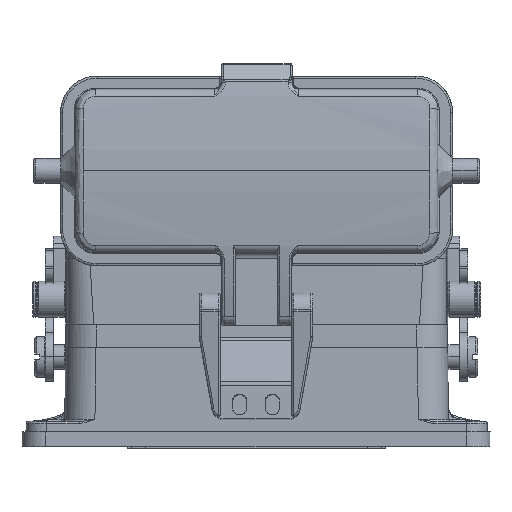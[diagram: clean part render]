
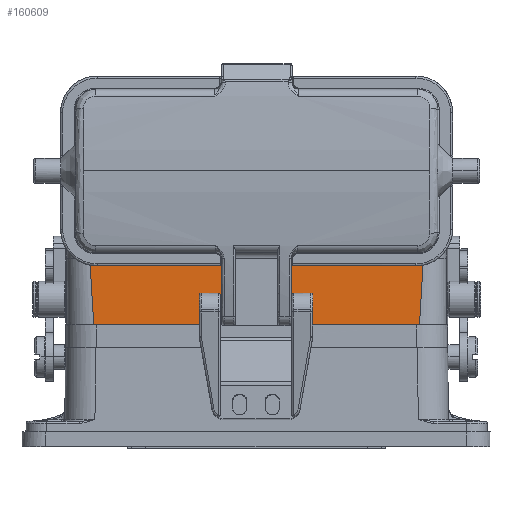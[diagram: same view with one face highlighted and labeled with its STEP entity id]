
A CAD part, top view. The second image highlights one B-rep face of the part: STEP entity #160609.
In plain terms, the highlighted planar face has unit normal (0, 0, 1) as drawn and (0, -1, 0) by its records, which use the part's own axes.
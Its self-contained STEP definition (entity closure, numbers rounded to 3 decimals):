
#937 = CARTESIAN_POINT ( 'NONE',  ( 40.706, -21.5, 12.744 ) ) ;
#10098 = EDGE_CURVE ( 'NONE', #142481, #10442, #26245, .T. ) ;
#10308 = CARTESIAN_POINT ( 'NONE',  ( -40.387, -21.5, 7.634 ) ) ;
#10442 = VERTEX_POINT ( 'NONE', #79802 ) ;
#11934 = LINE ( 'NONE', #66985, #47884 ) ;
#12977 = DIRECTION ( 'NONE',  ( 0., -1., 0. ) ) ;
#14377 = EDGE_CURVE ( 'NONE', #153404, #10442, #103889, .T. ) ;
#16795 = CARTESIAN_POINT ( 'NONE',  ( -40.684, -21.5, 12.782 ) ) ;
#19507 = EDGE_CURVE ( 'NONE', #101162, #153404, #118697, .T. ) ;
#20321 = CARTESIAN_POINT ( 'NONE',  ( -40.657, -21.5, 12.255 ) ) ;
#23001 = CARTESIAN_POINT ( 'NONE',  ( -39.97, -21.5, 1.189 ) ) ;
#26245 = B_SPLINE_CURVE_WITH_KNOTS ( 'NONE', 3,
 ( #44278, #937, #165343, #112968, #167145 ),
 .UNSPECIFIED., .F., .F.,
 ( 4, 1, 4 ),
 ( 0., 0.652, 1. ),
 .UNSPECIFIED. ) ;
#32871 = AXIS2_PLACEMENT_3D ( 'NONE', #68894, #12977, #165516 ) ;
#33880 = CARTESIAN_POINT ( 'NONE',  ( -40.42, -21.5, 8.154 ) ) ;
#34747 = CARTESIAN_POINT ( 'NONE',  ( -40.623, -21.5, 11.618 ) ) ;
#35608 = CARTESIAN_POINT ( 'NONE',  ( -39.889, -21.5, 0. ) ) ;
#40046 = PLANE ( 'NONE',  #32871 ) ;
#43786 = CARTESIAN_POINT ( 'NONE',  ( -40.769, -21.5, 14.531 ) ) ;
#44278 = CARTESIAN_POINT ( 'NONE',  ( 40.845, -21.5, 16.289 ) ) ;
#47884 = VECTOR ( 'NONE', #177208, 1000. ) ;
#49114 = CARTESIAN_POINT ( 'NONE',  ( -40.161, -21.5, 4.097 ) ) ;
#58285 = CARTESIAN_POINT ( 'NONE',  ( -40.815, -21.5, 15.576 ) ) ;
#63574 = CARTESIAN_POINT ( 'NONE',  ( -40.422, -21.5, 8.183 ) ) ;
#65378 = CARTESIAN_POINT ( 'NONE',  ( -40.183, -21.5, 4.437 ) ) ;
#66985 = CARTESIAN_POINT ( 'NONE',  ( -73.25, -21.5, 16.289 ) ) ;
#68894 = CARTESIAN_POINT ( 'NONE',  ( -73.25, -21.5, 0. ) ) ;
#71853 = CARTESIAN_POINT ( 'NONE',  ( -40.669, -21.5, 12.497 ) ) ;
#75220 = EDGE_CURVE ( 'NONE', #142481, #101162, #11934, .T. ) ;
#75372 = CARTESIAN_POINT ( 'NONE',  ( -40.165, -21.5, 4.163 ) ) ;
#76246 = CARTESIAN_POINT ( 'NONE',  ( -40.331, -21.5, 6.744 ) ) ;
#77167 = CARTESIAN_POINT ( 'NONE',  ( -40.424, -21.5, 8.225 ) ) ;
#78941 = CARTESIAN_POINT ( 'NONE',  ( -40.656, -21.5, 12.233 ) ) ;
#79802 = CARTESIAN_POINT ( 'NONE',  ( 39.889, -21.5, 0. ) ) ;
#80722 = FACE_OUTER_BOUND ( 'NONE', #165702, .T. ) ;
#85413 = CARTESIAN_POINT ( 'NONE',  ( -40.713, -21.5, 13.357 ) ) ;
#88960 = CARTESIAN_POINT ( 'NONE',  ( -40.659, -21.5, 12.295 ) ) ;
#90707 = CARTESIAN_POINT ( 'NONE',  ( -40.571, -21.5, 10.662 ) ) ;
#91623 = CARTESIAN_POINT ( 'NONE',  ( -40.498, -21.5, 9.438 ) ) ;
#101162 = VERTEX_POINT ( 'NONE', #144728 ) ;
#102528 = CARTESIAN_POINT ( 'NONE',  ( -40.44, -21.5, 8.473 ) ) ;
#103889 = LINE ( 'NONE', #158907, #110708 ) ;
#104277 = CARTESIAN_POINT ( 'NONE',  ( -40.429, -21.5, 8.308 ) ) ;
#110708 = VECTOR ( 'NONE', #147219, 1000. ) ;
#112968 = CARTESIAN_POINT ( 'NONE',  ( 40.012, -21.5, 1.888 ) ) ;
#118697 = B_SPLINE_CURVE_WITH_KNOTS ( 'NONE', 3,
 ( #140554, #58285, #43786, #85413, #16795, #71853, #130528, #88960, #20321, #78941, #34747, #90707, #91623, #134069, #102528, #104277, #77167, #63574, #146735, #33880, #144966, #10308, #76246, #118711, #131419, #65378, #172895, #75372, #158438, #49114, #171131, #157570, #23001, #35608 ),
 .UNSPECIFIED., .F., .F.,
 ( 4, 1, 1, 1, 1, 1, 2, 2, 1, 1, 1, 1, 1, 1, 1, 2, 2, 1, 1, 1, 1, 1, 1, 2, 2, 4 ),
 ( 0., 0.125, 0.188, 0.219, 0.234, 0.242, 0.246, 0.25, 0.375, 0.438, 0.469, 0.484, 0.492, 0.496, 0.498, 0.499, 0.5, 0.625, 0.688, 0.719, 0.734, 0.742, 0.746, 0.748, 0.75, 1. ),
 .UNSPECIFIED. ) ;
#118711 = CARTESIAN_POINT ( 'NONE',  ( -40.25, -21.5, 5.482 ) ) ;
#121262 = ORIENTED_EDGE ( 'NONE', *, *, #14377, .T. ) ;
#121723 = ORIENTED_EDGE ( 'NONE', *, *, #75220, .T. ) ;
#124557 = CARTESIAN_POINT ( 'NONE',  ( 40.845, -21.5, 16.289 ) ) ;
#130040 = ORIENTED_EDGE ( 'NONE', *, *, #19507, .T. ) ;
#130528 = CARTESIAN_POINT ( 'NONE',  ( -40.662, -21.5, 12.356 ) ) ;
#131419 = CARTESIAN_POINT ( 'NONE',  ( -40.206, -21.5, 4.795 ) ) ;
#134069 = CARTESIAN_POINT ( 'NONE',  ( -40.46, -21.5, 8.799 ) ) ;
#140554 = CARTESIAN_POINT ( 'NONE',  ( -40.845, -21.5, 16.289 ) ) ;
#142481 = VERTEX_POINT ( 'NONE', #124557 ) ;
#144728 = CARTESIAN_POINT ( 'NONE',  ( -40.845, -21.5, 16.289 ) ) ;
#144966 = CARTESIAN_POINT ( 'NONE',  ( -40.419, -21.5, 8.146 ) ) ;
#146735 = CARTESIAN_POINT ( 'NONE',  ( -40.421, -21.5, 8.166 ) ) ;
#147219 = DIRECTION ( 'NONE',  ( 1., 0., 0. ) ) ;
#151000 = CARTESIAN_POINT ( 'NONE',  ( -39.889, -21.5, 0. ) ) ;
#153404 = VERTEX_POINT ( 'NONE', #151000 ) ;
#157570 = CARTESIAN_POINT ( 'NONE',  ( -40.06, -21.5, 2.546 ) ) ;
#158438 = CARTESIAN_POINT ( 'NONE',  ( -40.163, -21.5, 4.123 ) ) ;
#158907 = CARTESIAN_POINT ( 'NONE',  ( -13.25, -21.5, 0. ) ) ;
#160609 = ADVANCED_FACE ( 'NONE', ( #80722 ), #40046, .T. ) ;
#165343 = CARTESIAN_POINT ( 'NONE',  ( 40.377, -21.5, 7.314 ) ) ;
#165516 = DIRECTION ( 'NONE',  ( 0., 0., -1. ) ) ;
#165702 = EDGE_LOOP ( 'NONE', ( #130040, #121262, #169732, #121723 ) ) ;
#167145 = CARTESIAN_POINT ( 'NONE',  ( 39.889, -21.5, 0. ) ) ;
#169732 = ORIENTED_EDGE ( 'NONE', *, *, #10098, .F. ) ;
#171131 = CARTESIAN_POINT ( 'NONE',  ( -40.16, -21.5, 4.082 ) ) ;
#172895 = CARTESIAN_POINT ( 'NONE',  ( -40.171, -21.5, 4.255 ) ) ;
#177208 = DIRECTION ( 'NONE',  ( -1., 0., 0. ) ) ;
